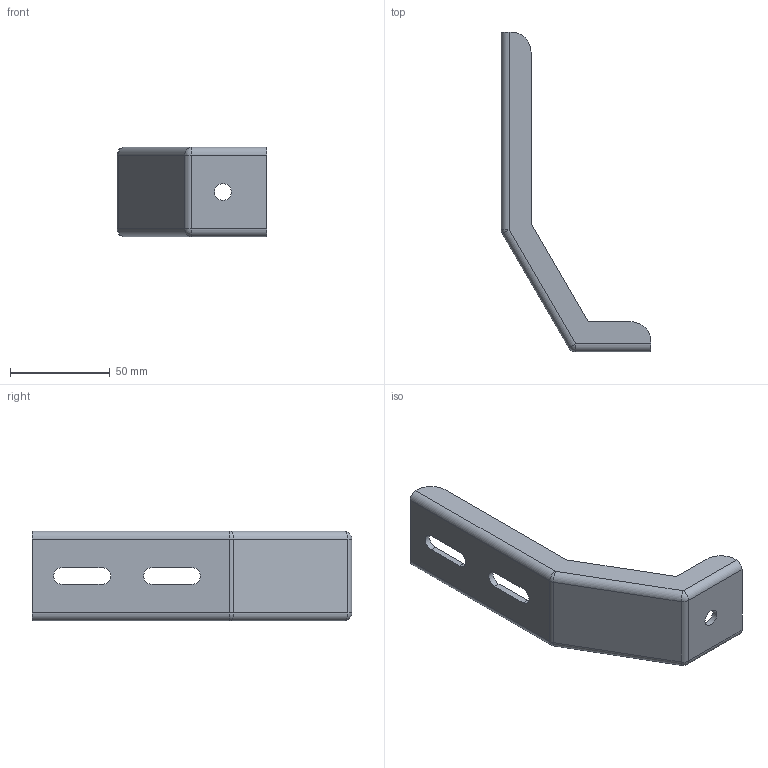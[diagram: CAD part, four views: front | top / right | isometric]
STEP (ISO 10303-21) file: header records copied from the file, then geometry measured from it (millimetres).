
FILE_DESCRIPTION (( 'STEP AP214' ), '1' );
FILE_NAME ('SN04004.step', '2024-12-03T16:31:43', ( '' ), ( '' ), 'SwSTEP 2.0', 'SolidWorks 2023', '' );
FILE_SCHEMA (( 'AUTOMOTIVE_DESIGN' ));
Length unit declared in the file: millimetre
Products named in the file (1): SN04004
Bounding box: 75 x 160 x 45 mm (x, y, z)
Volume: 38755.2 mm3; surface area: 27780.9 mm2
Topology: 1 solids, 1 shells, 55 faces, 139 edges, 82 vertices
Faces by surface type: cylinder 25, plane 22, sphere 8
Full cylindrical faces by diameter (mm): 8.5 x1
Entity records: 1637 total; most frequent: DIRECTION 296, CARTESIAN_POINT 272, ORIENTED_EDGE 268, EDGE_CURVE 134, AXIS2_PLACEMENT_3D 106, LINE 84, VECTOR 84, VERTEX_POINT 82
